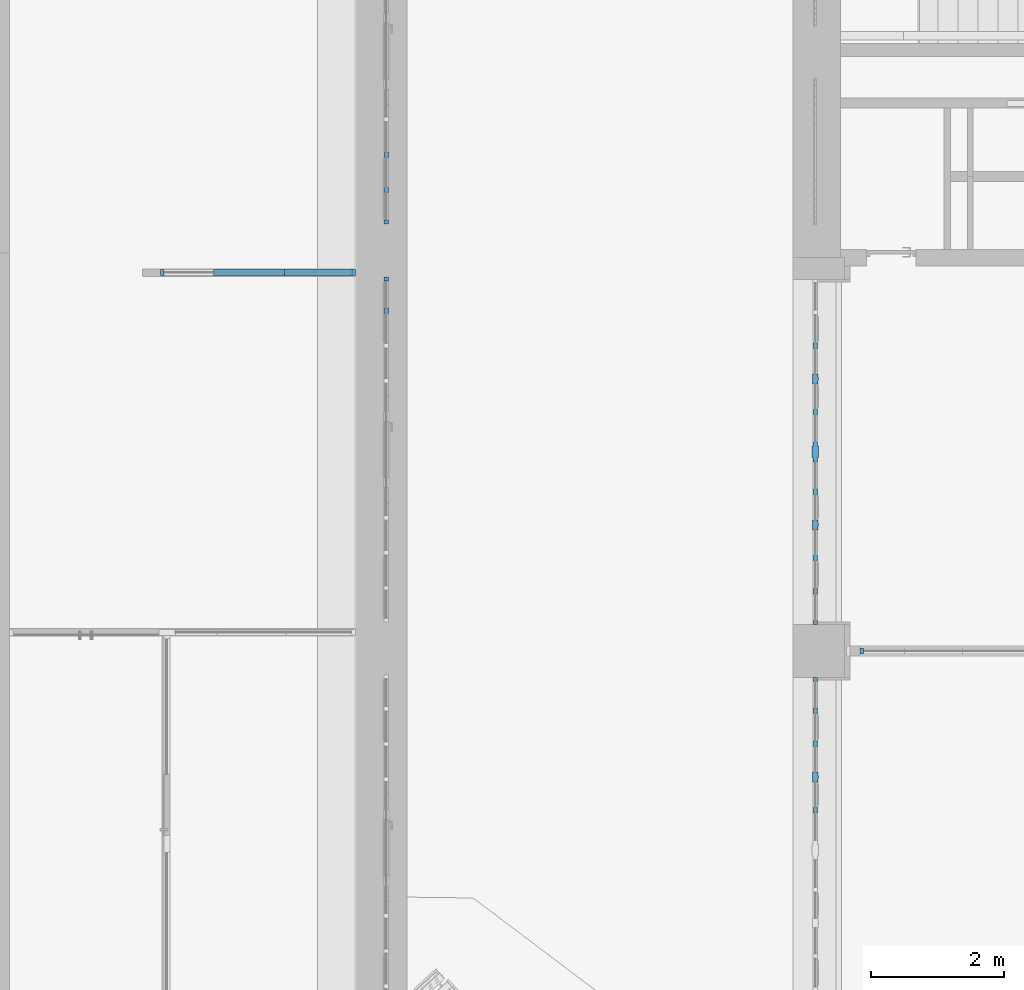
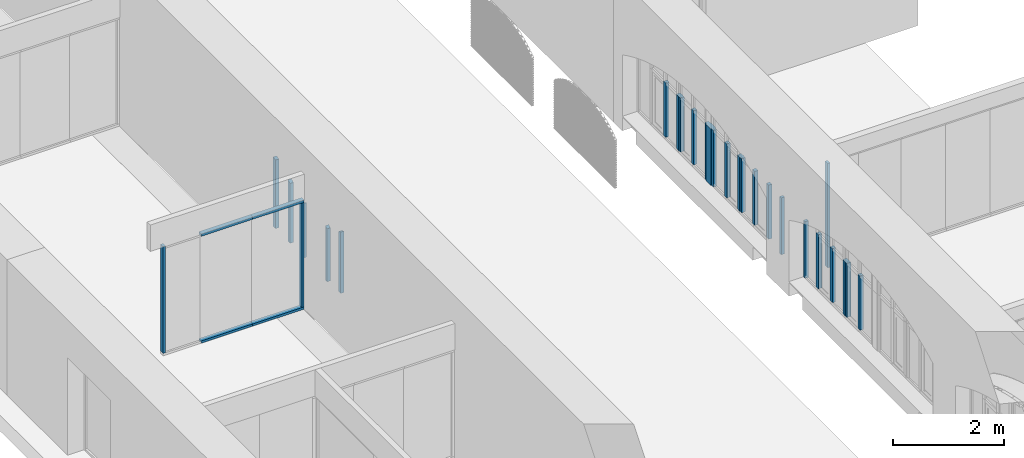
# One storey, part 7 of 88: 26 members, 6 elements without a shape of their own.
"""IFC2X3 building model written with IfcOpenShell, lengths in millimetres."""

import ifcopenshell
import ifcopenshell.guid

model = None  # the IFC model being written
_history = None  # IfcOwnerHistory: only IFC2X3 demands one
_inside = {}  # id of a spatial element -> (the spatial element, [elements in it])
_under = {}  # id of a project, library or spatial element -> (it, [spatial elements below it])
_declared = {}  # id of a project -> (the project, [libraries it declares])
_typed = {}  # id of a type object -> (the type object, [elements of that type])
_made_of = {}  # id of a material, layer set ... -> (it, [elements and type objects made of it])


def new_model(schema):
    """Start an empty IFC model of exactly this schema.

    Asked for "IFC4X3", IfcOpenShell would pick the latest addendum, in which some entities
    have other attributes; the version numbers below select the first issue.
    IFC2X3 requires an IfcOwnerHistory on every rooted entity: one is made here for all.
    """
    global model, _history
    if schema == "IFC4X3":
        model = ifcopenshell.file(schema_version=(4, 3, 0, 0))
    else:
        model = ifcopenshell.file(schema=schema)
    _inside.clear()
    _under.clear()
    _declared.clear()
    _typed.clear()
    _made_of.clear()
    _history = None
    if model.schema == "IFC2X3":
        org = make("IfcOrganization", Name="unknown")
        user = make(
            "IfcPersonAndOrganization",
            ThePerson=make("IfcPerson", FamilyName="unknown"),
            TheOrganization=org,
        )
        app = make(
            "IfcApplication",
            ApplicationDeveloper=org,
            Version="unknown",
            ApplicationFullName="unknown",
            ApplicationIdentifier="unknown",
        )
        _history = make(
            "IfcOwnerHistory",
            OwningUser=user,
            OwningApplication=app,
            ChangeAction="ADDED",
            CreationDate=0,
        )
    return model


def make(cls, **values):
    """One entity of the class cls with the attributes given. An attribute that is None is left unset."""
    return model.create_entity(
        cls, **{name: value for name, value in values.items() if value is not None}
    )


def entity(cls, *values):
    """Any entity or typed value of the class cls, its attributes in the order of the schema. None: left unset."""
    e = model.create_entity(cls)
    for i, value in enumerate(values):
        if value is not None:
            e[i] = value
    return e


def rooted(cls, **values):
    """An entity with a GlobalId (a new one), such as an element, a storey or a relation."""
    return make(cls, GlobalId=ifcopenshell.guid.new(), OwnerHistory=_history, **values)


def si_unit(unit_type, name, prefix=None):
    """IfcSIUnit, for example si_unit("LENGTHUNIT", "METRE", prefix="MILLI")."""
    return make("IfcSIUnit", UnitType=unit_type, Prefix=prefix, Name=name)


def converted_unit(unit_type, name, factor, base, dimensions=None, offset=None):
    """IfcConversionBasedUnit, such as the inch: factor (a typed value) times the base unit."""
    return make(
        "IfcConversionBasedUnit"
        if offset is None
        else "IfcConversionBasedUnitWithOffset",
        ConversionOffset=offset,
        Dimensions=None
        if dimensions is None
        else entity("IfcDimensionalExponents", *dimensions),
        UnitType=unit_type,
        Name=name,
        ConversionFactor=make(
            "IfcMeasureWithUnit", ValueComponent=factor, UnitComponent=base
        ),
    )


def derived_unit(unit_type, elements):
    """IfcDerivedUnit: a product of units, each with its exponent."""
    return make(
        "IfcDerivedUnit",
        Elements=[
            make("IfcDerivedUnitElement", Unit=unit, Exponent=power)
            for unit, power in elements
        ],
        UnitType=unit_type,
    )


def assignment(units):
    """IfcUnitAssignment: the units of a project."""
    return None if units is None else make("IfcUnitAssignment", Units=units)


def point(xyz):
    """IfcCartesianPoint."""
    return None if xyz is None else make("IfcCartesianPoint", Coordinates=xyz)


def direction(xyz):
    """IfcDirection."""
    return None if xyz is None else make("IfcDirection", DirectionRatios=xyz)


def frame(location, z_axis=None, x_axis=None):
    """IfcAxis2Placement3D, a coordinate frame: its origin and axes. An axis left out is left unset."""
    return make(
        "IfcAxis2Placement3D",
        Location=point(location),
        Axis=direction(z_axis),
        RefDirection=direction(x_axis),
    )


def frame_2d(location, x_axis=None):
    """IfcAxis2Placement2D, a coordinate frame in the plane: its origin and x axis."""
    return make(
        "IfcAxis2Placement2D", Location=point(location), RefDirection=direction(x_axis)
    )


def origin():
    """The frame at (0, 0, 0) with its axes left unset."""
    return frame((0.0, 0.0, 0.0))


def origin_2d_with_axis():
    """The frame at (0, 0) in the plane with the x axis (1, 0) written out."""
    return frame_2d((0.0, 0.0), x_axis=(1.0, 0.0))


def place(relative_to, where):
    """IfcLocalPlacement: puts the frame where relative to a parent placement (None: the world)."""
    return make(
        "IfcLocalPlacement", PlacementRelTo=relative_to, RelativePlacement=where
    )


def context(
    kind, dimensions, precision=None, world=None, true_north=None, identifier=None
):
    """IfcGeometricRepresentationContext, for example the 3D "Model" context."""
    return make(
        "IfcGeometricRepresentationContext",
        ContextIdentifier=identifier,
        ContextType=kind,
        CoordinateSpaceDimension=dimensions,
        Precision=precision,
        WorldCoordinateSystem=world,
        TrueNorth=true_north,
    )


def subcontext(parent, identifier, kind, view, scale=None):
    """IfcGeometricRepresentationSubContext, for example "Body" below "Model"."""
    return make(
        "IfcGeometricRepresentationSubContext",
        ContextIdentifier=identifier,
        ContextType=kind,
        ParentContext=parent,
        TargetScale=scale,
        TargetView=view,
    )


def project(units=None, contexts=None):
    """IfcProject with its units and contexts."""
    return rooted(
        "IfcProject",
        Name="project",
        RepresentationContexts=contexts,
        UnitsInContext=assignment(units),
    )


def spatial(cls, under=None, at=None, **own):
    """A site, building, storey or space (cls), placed at a placement, below another one or the project."""
    s = rooted(cls, ObjectPlacement=at, **own)
    if under is not None:
        _under.setdefault(under.id(), (under, []))[1].append(s)
    return s


def polyline(points):
    """IfcPolyline through the points."""
    return make("IfcPolyline", Points=[point(p) for p in points])


def circle_curve(where, radius):
    """IfcCircle in the frame where."""
    return make("IfcCircle", Position=where, Radius=radius)


def parameter(value):
    """IfcParameterValue: where a trimmed curve begins or ends, as a parameter of its basis curve."""
    return model.create_entity("IfcParameterValue", value)


def trimmed(basis, trim1, trim2, sense, master):
    """IfcTrimmedCurve: the piece of a basis curve between two trims."""
    return make(
        "IfcTrimmedCurve",
        BasisCurve=basis,
        Trim1=trim1,
        Trim2=trim2,
        SenseAgreement=sense,
        MasterRepresentation=master,
    )


def segment(curve, same_sense, transition):
    """IfcCompositeCurveSegment."""
    return make(
        "IfcCompositeCurveSegment",
        Transition=transition,
        SameSense=same_sense,
        ParentCurve=curve,
    )


def composite_curve(segments, self_intersect=None):
    """IfcCompositeCurve: segments joined end to end."""
    return make("IfcCompositeCurve", Segments=segments, SelfIntersect=self_intersect)


def profile(cls, at=None, kind="AREA", **sizes):
    """A parametric profile (cls). Its sizes go by their IFC names, for example OverallWidth=200.0."""
    return make(cls, ProfileType=kind, Position=at, **sizes)


def rectangle(**sizes):
    """IfcRectangleProfileDef."""
    return profile("IfcRectangleProfileDef", **sizes)


def outline(outer, holes=None, kind="AREA"):
    """IfcArbitraryClosedProfileDef: a profile drawn as a closed curve; with holes, ...WithVoids."""
    if holes is None:
        return make("IfcArbitraryClosedProfileDef", ProfileType=kind, OuterCurve=outer)
    return make(
        "IfcArbitraryProfileDefWithVoids",
        ProfileType=kind,
        OuterCurve=outer,
        InnerCurves=holes,
    )


def extrude(swept, where, along, depth):
    """IfcExtrudedAreaSolid: the profile swept, set in the frame where, extruded along a direction by depth."""
    return make(
        "IfcExtrudedAreaSolid",
        SweptArea=swept,
        Position=where,
        ExtrudedDirection=direction(along),
        Depth=depth,
    )


def shape(context_of_items, identifier, shape_type, items):
    """IfcShapeRepresentation: the items that make up one representation, for example the "Body"."""
    return make(
        "IfcShapeRepresentation",
        ContextOfItems=context_of_items,
        RepresentationIdentifier=identifier,
        RepresentationType=shape_type,
        Items=items,
    )


def source(mapping_origin, context_of_items, identifier, shape_type, items):
    """IfcRepresentationMap: a shape defined once, which mapped items show again and again."""
    return make(
        "IfcRepresentationMap",
        MappingOrigin=mapping_origin,
        MappedRepresentation=shape(context_of_items, identifier, shape_type, items),
    )


def transform(
    local_origin,
    x_axis=None,
    y_axis=None,
    z_axis=None,
    scale=None,
    scale2=None,
    scale3=None,
    uniform=True,
):
    """IfcCartesianTransformationOperator3D, or its non-uniform kind. x_axis, y_axis, z_axis: its Axis1, 2, 3."""
    if uniform:
        return make(
            "IfcCartesianTransformationOperator3D",
            Axis1=direction(x_axis),
            Axis2=direction(y_axis),
            LocalOrigin=point(local_origin),
            Scale=scale,
            Axis3=direction(z_axis),
        )
    return make(
        "IfcCartesianTransformationOperator3DnonUniform",
        Axis1=direction(x_axis),
        Axis2=direction(y_axis),
        LocalOrigin=point(local_origin),
        Scale=scale,
        Axis3=direction(z_axis),
        Scale2=scale2,
        Scale3=scale3,
    )


def mapped(mapping_source, mapping_target):
    """IfcMappedItem: shows the shape of a source again, moved by a transform."""
    return make(
        "IfcMappedItem", MappingSource=mapping_source, MappingTarget=mapping_target
    )


def material(Name=None, Category=None):
    """IfcMaterial."""
    return make("IfcMaterial", Name=Name, Category=Category)


def made_of(thing, what):
    """Note that an element or type object is made of a material, layer set ...; save() writes the relation."""
    if what is not None:
        _made_of.setdefault(what.id(), (what, []))[1].append(thing)
    return thing


def type_object(cls, material=None, **own):
    """A type object (cls), such as IfcWallType, which elements share."""
    return made_of(rooted(cls, **own), material)


def type_shapes(of_type, sources):
    """Give a type object the sources (RepresentationMaps) that its elements show as mapped items."""
    of_type.RepresentationMaps = sources


def element(
    cls,
    number,
    at=None,
    inside=None,
    cuts=None,
    type_object=None,
    material=None,
    context=None,
    identifier="Body",
    shape_type=None,
    held_by="IfcProductDefinitionShape",
    body=None,
    shapes=None,
    **own,
):
    """One element of the class cls, such as IfcWall. Its Tag is "e" and its number.

    at: its placement. inside: the storey or other place that contains it. cuts: it is an
    opening in that element (IfcRelVoidsElement). A single representation is given by context,
    identifier, shape_type and body (its items); several are given by shapes. held_by: the class
    of the entity that holds the representations. save() writes the other relations.
    """
    e = rooted(cls, Tag="e%d" % number, ObjectPlacement=at, **own)
    if body is not None:
        shapes = [shape(context, identifier, shape_type, body)]
    if shapes is not None:
        e.Representation = make(held_by, Representations=shapes)
    if inside is not None:
        _inside.setdefault(inside.id(), (inside, []))[1].append(e)
    if cuts is not None:
        rooted(
            "IfcRelVoidsElement", RelatingBuildingElement=cuts, RelatedOpeningElement=e
        )
    if type_object is not None:
        _typed.setdefault(type_object.id(), (type_object, []))[1].append(e)
    return made_of(e, material)


def aggregate(whole, parts):
    """IfcRelAggregates: a whole, such as a stair, and the parts it consists of."""
    return rooted("IfcRelAggregates", RelatingObject=whole, RelatedObjects=parts)


def save(model, path):
    """Write the relations noted so far, then the file.

    IfcRelAggregates (storeys below a building ...), IfcRelContainedInSpatialStructure (elements
    in a storey), IfcRelDefinesByType, IfcRelAssociatesMaterial and IfcRelDeclares: one each for
    every whole, place, type object, material and project.
    """
    for whole, parts in _under.values():
        aggregate(whole, parts)
    for where, things in _inside.values():
        rooted(
            "IfcRelContainedInSpatialStructure",
            RelatedElements=things,
            RelatingStructure=where,
        )
    for kind, things in _typed.values():
        rooted("IfcRelDefinesByType", RelatedObjects=things, RelatingType=kind)
    for what, things in _made_of.values():
        rooted("IfcRelAssociatesMaterial", RelatedObjects=things, RelatingMaterial=what)
    for by, libraries in _declared.values():
        rooted("IfcRelDeclares", RelatingContext=by, RelatedDefinitions=libraries)
    model.write(path)


model = new_model("IFC2X3")

# Units and contexts
model_context = context("Model", 3, precision=0.01, world=origin(), true_north=direction((6.123031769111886e-17, 1.0)))
body_context = subcontext(model_context, "Body", "Model", "MODEL_VIEW")
ifc_project = project(units=[si_unit("LENGTHUNIT", "METRE", prefix="MILLI"), si_unit("AREAUNIT", "SQUARE_METRE"), si_unit("VOLUMEUNIT", "CUBIC_METRE"), converted_unit("PLANEANGLEUNIT", "DEGREE", entity("IfcPlaneAngleMeasure", 0.017453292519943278), si_unit("PLANEANGLEUNIT", "RADIAN"), dimensions=[0, 0, 0, 0, 0, 0, 0]), si_unit("MASSUNIT", "GRAM", prefix="KILO"), derived_unit("MASSDENSITYUNIT", [(si_unit("MASSUNIT", "GRAM", prefix="KILO"), 1), (si_unit("LENGTHUNIT", "METRE"), -3)]), derived_unit("IONCONCENTRATIONUNIT", [(si_unit("MASSUNIT", "GRAM", prefix="KILO"), 1), (si_unit("LENGTHUNIT", "METRE"), -3)]), derived_unit("MOMENTOFINERTIAUNIT", [(si_unit("LENGTHUNIT", "METRE"), 4)]), si_unit("TIMEUNIT", "SECOND"), si_unit("FREQUENCYUNIT", "HERTZ"), si_unit("THERMODYNAMICTEMPERATUREUNIT", "DEGREE_CELSIUS"), derived_unit("THERMALTRANSMITTANCEUNIT", [(si_unit("MASSUNIT", "GRAM", prefix="KILO"), 1), (si_unit("THERMODYNAMICTEMPERATUREUNIT", "KELVIN"), -1), (si_unit("TIMEUNIT", "SECOND"), -3)]), derived_unit("THERMALCONDUCTANCEUNIT", [(si_unit("MASSUNIT", "GRAM", prefix="KILO"), 1), (si_unit("THERMODYNAMICTEMPERATUREUNIT", "KELVIN"), -1), (si_unit("TIMEUNIT", "SECOND"), -3), (si_unit("LENGTHUNIT", "METRE"), 1)]), derived_unit("VOLUMETRICFLOWRATEUNIT", [(si_unit("LENGTHUNIT", "METRE", prefix="DECI"), 3), (si_unit("TIMEUNIT", "SECOND"), -1)]), derived_unit("MASSFLOWRATEUNIT", [(si_unit("MASSUNIT", "GRAM", prefix="KILO"), 1), (si_unit("TIMEUNIT", "SECOND"), -1)]), derived_unit("ROTATIONALFREQUENCYUNIT", [(si_unit("TIMEUNIT", "SECOND"), -1)]), si_unit("ELECTRICCURRENTUNIT", "AMPERE"), si_unit("ELECTRICVOLTAGEUNIT", "VOLT"), si_unit("POWERUNIT", "WATT"), si_unit("FORCEUNIT", "NEWTON", prefix="KILO"), si_unit("ILLUMINANCEUNIT", "LUX"), si_unit("LUMINOUSFLUXUNIT", "LUMEN"), si_unit("LUMINOUSINTENSITYUNIT", "CANDELA"), si_unit("ENERGYUNIT", "JOULE"), derived_unit("USERDEFINED", [(si_unit("MASSUNIT", "GRAM", prefix="KILO"), -1), (si_unit("LENGTHUNIT", "METRE"), -2), (si_unit("TIMEUNIT", "SECOND"), 3), (si_unit("LUMINOUSFLUXUNIT", "LUMEN"), 1)]), derived_unit("USERDEFINED", [(si_unit("MASSUNIT", "GRAM", prefix="KILO"), 1), (si_unit("TIMEUNIT", "SECOND"), -3), (si_unit("LENGTHUNIT", "METRE"), 3), (si_unit("ELECTRICCURRENTUNIT", "AMPERE"), -2)]), derived_unit("SOUNDPOWERUNIT", [(si_unit("MASSUNIT", "GRAM", prefix="KILO"), 1), (si_unit("TIMEUNIT", "SECOND"), -3), (si_unit("LENGTHUNIT", "METRE"), 2)]), derived_unit("SOUNDPRESSUREUNIT", [(si_unit("MASSUNIT", "GRAM", prefix="KILO"), 1), (si_unit("LENGTHUNIT", "METRE"), -1), (si_unit("TIMEUNIT", "SECOND"), -2)]), derived_unit("LINEARVELOCITYUNIT", [(si_unit("LENGTHUNIT", "METRE"), 1), (si_unit("TIMEUNIT", "SECOND"), -1)]), si_unit("PRESSUREUNIT", "PASCAL"), derived_unit("USERDEFINED", [(si_unit("MASSUNIT", "GRAM", prefix="KILO"), 1), (si_unit("LENGTHUNIT", "METRE"), -2), (si_unit("TIMEUNIT", "SECOND"), -2)]), derived_unit("LINEARFORCEUNIT", [(si_unit("MASSUNIT", "GRAM", prefix="KILO"), 1), (si_unit("TIMEUNIT", "SECOND"), -2)]), derived_unit("PLANARFORCEUNIT", [(si_unit("MASSUNIT", "GRAM", prefix="KILO"), 1), (si_unit("LENGTHUNIT", "METRE"), -1), (si_unit("TIMEUNIT", "SECOND"), -2)]), derived_unit("SPECIFICHEATCAPACITYUNIT", [(si_unit("THERMODYNAMICTEMPERATUREUNIT", "KELVIN"), -1), (si_unit("LENGTHUNIT", "METRE"), 2), (si_unit("TIMEUNIT", "SECOND"), -2)]), derived_unit("HEATFLUXDENSITYUNIT", [(si_unit("MASSUNIT", "GRAM", prefix="KILO"), 1), (si_unit("TIMEUNIT", "SECOND"), -3)]), derived_unit("HEATINGVALUEUNIT", [(si_unit("LENGTHUNIT", "METRE"), 2), (si_unit("TIMEUNIT", "SECOND"), -2)]), derived_unit("VAPORPERMEABILITYUNIT", [(si_unit("LENGTHUNIT", "METRE"), -1), (si_unit("TIMEUNIT", "SECOND"), 1)]), derived_unit("DYNAMICVISCOSITYUNIT", [(si_unit("MASSUNIT", "GRAM", prefix="KILO"), 1), (si_unit("TIMEUNIT", "SECOND"), -1), (si_unit("LENGTHUNIT", "METRE"), -1)]), derived_unit("THERMALEXPANSIONCOEFFICIENTUNIT", [(si_unit("THERMODYNAMICTEMPERATUREUNIT", "KELVIN"), -1)]), derived_unit("MODULUSOFELASTICITYUNIT", [(si_unit("MASSUNIT", "GRAM", prefix="KILO"), 1), (si_unit("LENGTHUNIT", "METRE"), -1), (si_unit("TIMEUNIT", "SECOND"), -2)]), derived_unit("ISOTHERMALMOISTURECAPACITYUNIT", [(si_unit("MASSUNIT", "GRAM", prefix="KILO"), -1), (si_unit("LENGTHUNIT", "METRE"), 3)]), derived_unit("MOISTUREDIFFUSIVITYUNIT", [(si_unit("TIMEUNIT", "SECOND"), -1), (si_unit("LENGTHUNIT", "METRE"), 2)]), derived_unit("MASSPERLENGTHUNIT", [(si_unit("MASSUNIT", "GRAM", prefix="KILO"), 1), (si_unit("LENGTHUNIT", "METRE"), -1)]), derived_unit("THERMALRESISTANCEUNIT", [(si_unit("MASSUNIT", "GRAM", prefix="KILO"), -1), (si_unit("TIMEUNIT", "SECOND"), 3), (si_unit("THERMODYNAMICTEMPERATUREUNIT", "KELVIN"), 1)]), derived_unit("ACCELERATIONUNIT", [(si_unit("LENGTHUNIT", "METRE"), 1), (si_unit("TIMEUNIT", "SECOND"), -2)]), derived_unit("ANGULARVELOCITYUNIT", [(si_unit("TIMEUNIT", "SECOND"), -1), (si_unit("PLANEANGLEUNIT", "RADIAN"), 1)]), derived_unit("LINEARSTIFFNESSUNIT", [(si_unit("MASSUNIT", "GRAM", prefix="KILO"), 1), (si_unit("TIMEUNIT", "SECOND"), -2)]), derived_unit("WARPINGCONSTANTUNIT", [(si_unit("LENGTHUNIT", "METRE"), 6)]), derived_unit("LINEARMOMENTUNIT", [(si_unit("MASSUNIT", "GRAM", prefix="KILO"), 1), (si_unit("LENGTHUNIT", "METRE"), 1), (si_unit("TIMEUNIT", "SECOND"), -2)]), derived_unit("TORQUEUNIT", [(si_unit("MASSUNIT", "GRAM", prefix="KILO"), 1), (si_unit("LENGTHUNIT", "METRE"), 2), (si_unit("TIMEUNIT", "SECOND"), -2)])], contexts=[model_context])

# Site, building, storey
site_placement = place(None, origin())
site = spatial("IfcSite", under=ifc_project, at=site_placement, Name="Default", CompositionType="ELEMENT")
building_placement = place(site_placement, origin())
building = spatial("IfcBuilding", under=site, at=building_placement, Name="Eesti Rahvusraamatukogu hoone renoveerimise projekteerimistööd", CompositionType="ELEMENT")
storey_placement = place(building_placement, origin())
storey = spatial("IfcBuildingStorey", under=building, at=storey_placement, Name="1. korrus", CompositionType="ELEMENT", Elevation=0.0)

# Curtain wall, member
curtain_wall_type_1 = type_object("IfcCurtainWallType", Name="Curtain Wall:VLS Klaasvahesein profiilita 38db", PredefinedType="NOTDEFINED")
curtain_wall_1_placement = place(storey_placement, origin())
curtain_wall_1 = element("IfcCurtainWall", 1, at=curtain_wall_1_placement, inside=storey, type_object=curtain_wall_type_1, Name="Curtain Wall:VLS Klaasvahesein profiilita 38db", ObjectType="Curtain Wall:VLS Klaasvahesein profiilita 38db")
ifc_material_1 = material(Name="Aluminum")
member_type_1 = type_object("IfcMemberType", Name="Rectangular Mullion:50mm x 92mm", PredefinedType="MULLION", material=ifc_material_1)
shared_shape_1 = source(origin(), body_context, "Body", "SweptSolid", [
    extrude(rectangle(XDim=50.0, YDim=92.0, at=origin_2d_with_axis()), frame((-25.0, 0.0, -2300.0), z_axis=(0.0, 0.0, 1.0), x_axis=(-1.0, 0.0, 0.0)), (0.0, 0.0, 1.0), 2300.0),
])
type_shapes(member_type_1, [shared_shape_1])
member_1_placement = place(curtain_wall_1_placement, frame((-43370.0, 24092.0, 2350.0)))
member_1 = element("IfcMember", 2, at=member_1_placement, type_object=member_type_1, material=ifc_material_1, Name="Rectangular Mullion:50mm x 92mm", ObjectType="Rectangular Mullion:50mm x 92mm", context=body_context, shape_type="MappedRepresentation", body=[
    mapped(shared_shape_1, transform((0.0, 0.0, 0.0), scale=1.0)),
])

curtain_wall_2_placement = place(storey_placement, origin())
curtain_wall_2 = element("IfcCurtainWall", 3, at=curtain_wall_2_placement, inside=storey, type_object=curtain_wall_type_1, Name="Curtain Wall:VLS Klaasvahesein profiilita 38db", ObjectType="Curtain Wall:VLS Klaasvahesein profiilita 38db")
member_2_placement = place(curtain_wall_2_placement, frame((-35765.499999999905, 18390.0, 4000.0), z_axis=(0.0, 0.0, 1.0), x_axis=(-1.0, 0.0, 0.0)))
member_2 = element("IfcMember", 4, at=member_2_placement, type_object=member_type_1, material=ifc_material_1, Name="Rectangular Mullion:50mm x 92mm", ObjectType="Rectangular Mullion:50mm x 92mm", context=body_context, shape_type="MappedRepresentation", body=[
    mapped(shared_shape_1, transform((0.0, 0.0, 0.0), scale=1.0)),
])
aggregate(curtain_wall_2, [member_2])

# Member
member_type_2 = type_object("IfcMemberType", Name="Rectangular Mullion:50mm x 92mm", PredefinedType="MULLION", material=ifc_material_1)
shared_shape_2 = source(origin(), body_context, "Body", "SweptSolid", [
    extrude(rectangle(XDim=50.0, YDim=92.0, at=frame_2d((0.0, 3.552713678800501e-15), x_axis=(1.0, 0.0))), frame((-25.0, 0.0, -1070.0000001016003), z_axis=(0.0, 0.0, 1.0), x_axis=(-1.0, 0.0, 0.0)), (0.0, 0.0, 1.0), 1070.0000001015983),
])
type_shapes(member_type_2, [shared_shape_2])
member_3_placement = place(curtain_wall_1_placement, frame((-43370.0, 24092.0, 0.0), z_axis=(1.0, 0.0, 0.0), x_axis=(0.0, 0.0, -1.0)))
member_3 = element("IfcMember", 5, at=member_3_placement, type_object=member_type_2, material=ifc_material_1, Name="Rectangular Mullion:50mm x 92mm", ObjectType="Rectangular Mullion:50mm x 92mm", context=body_context, shape_type="MappedRepresentation", body=[
    mapped(shared_shape_2, transform((0.0, 0.0, 0.0), scale=1.0)),
])

member_type_3 = type_object("IfcMemberType", Name="Rectangular Mullion:50mm x 92mm", PredefinedType="MULLION", material=ifc_material_1)
shared_shape_3 = source(origin(), body_context, "Body", "SweptSolid", [
    extrude(rectangle(XDim=50.0, YDim=92.0, at=origin_2d_with_axis()), frame((-25.0, 0.0, -2350.0), z_axis=(0.0, 0.0, 1.0), x_axis=(-1.0, 0.0, 0.0)), (0.0, 0.0, 1.0), 2350.0),
])
type_shapes(member_type_3, [shared_shape_3])
member_4_placement = place(curtain_wall_1_placement, frame((-46305.0, 24092.0, 50.0), z_axis=(0.0, 0.0, -1.0), x_axis=(-1.0, 0.0, 0.0)))
member_4 = element("IfcMember", 6, at=member_4_placement, type_object=member_type_3, material=ifc_material_1, Name="Rectangular Mullion:50mm x 92mm", ObjectType="Rectangular Mullion:50mm x 92mm", context=body_context, shape_type="MappedRepresentation", body=[
    mapped(shared_shape_3, transform((0.0, 0.0, 0.0), scale=1.0)),
])

member_type_4 = type_object("IfcMemberType", Name="Rectangular Mullion:50mm x 92mm", PredefinedType="MULLION", material=ifc_material_1)
shared_shape_4 = source(origin(), body_context, "Body", "SweptSolid", [
    extrude(rectangle(XDim=50.0, YDim=92.0, at=frame_2d((0.0, 3.552713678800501e-15), x_axis=(1.0, 0.0))), frame((-25.0, 0.0, -1070.000000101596), z_axis=(0.0, 0.0, 1.0), x_axis=(-1.0, 0.0, 0.0)), (0.0, 0.0, 1.0), 1070.0000001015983),
])
type_shapes(member_type_4, [shared_shape_4])
member_5_placement = place(curtain_wall_1_placement, frame((-44440.00000010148, 24092.0, 2400.0), z_axis=(-1.0, 0.0, 0.0), x_axis=(0.0, 0.0, 1.0)))
member_5 = element("IfcMember", 7, at=member_5_placement, type_object=member_type_4, material=ifc_material_1, Name="Rectangular Mullion:50mm x 92mm", ObjectType="Rectangular Mullion:50mm x 92mm", context=body_context, shape_type="MappedRepresentation", body=[
    mapped(shared_shape_4, transform((0.0, 0.0, 0.0), scale=1.0)),
])

member_type_5 = type_object("IfcMemberType", Name="Rectangular Mullion:50mm x 92mm", PredefinedType="MULLION", material=ifc_material_1)
shared_shape_5 = source(origin(), body_context, "Body", "SweptSolid", [
    extrude(rectangle(XDim=50.0, YDim=92.0, at=frame_2d((0.0, 3.552713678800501e-15), x_axis=(1.0, 0.0))), frame((-25.0, 0.0, -1069.99999979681), z_axis=(0.0, 0.0, 1.0), x_axis=(-1.0, 0.0, 0.0)), (0.0, 0.0, 1.0), 1069.99999979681),
])
type_shapes(member_type_5, [shared_shape_5])
member_6_placement = place(curtain_wall_1_placement, frame((-45509.99999989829, 24092.0, 2400.0), z_axis=(-1.0, 0.0, 0.0), x_axis=(0.0, 0.0, 1.0)))
member_6 = element("IfcMember", 8, at=member_6_placement, type_object=member_type_5, material=ifc_material_1, Name="Rectangular Mullion:50mm x 92mm", ObjectType="Rectangular Mullion:50mm x 92mm", context=body_context, shape_type="MappedRepresentation", body=[
    mapped(shared_shape_5, transform((0.0, 0.0, 0.0), scale=1.0)),
])

member_type_6 = type_object("IfcMemberType", Name="Rectangular Mullion:50mm x 92mm", PredefinedType="MULLION", material=ifc_material_1)
shared_shape_6 = source(origin(), body_context, "Body", "SweptSolid", [
    extrude(rectangle(XDim=50.0, YDim=92.0, at=frame_2d((0.0, 3.552713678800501e-15), x_axis=(1.0, 0.0))), frame((-25.0, 0.0, -1069.99999979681), z_axis=(0.0, 0.0, 1.0), x_axis=(-1.0, 0.0, 0.0)), (0.0, 0.0, 1.0), 1069.99999979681),
])
type_shapes(member_type_6, [shared_shape_6])
member_7_placement = place(curtain_wall_1_placement, frame((-44440.00000010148, 24092.0, 0.0), z_axis=(1.0, 0.0, 0.0), x_axis=(0.0, 0.0, -1.0)))
member_7 = element("IfcMember", 9, at=member_7_placement, type_object=member_type_6, material=ifc_material_1, Name="Rectangular Mullion:50mm x 92mm", ObjectType="Rectangular Mullion:50mm x 92mm", context=body_context, shape_type="MappedRepresentation", body=[
    mapped(shared_shape_6, transform((0.0, 0.0, 0.0), scale=1.0)),
])

aggregate(curtain_wall_1, [member_3, member_4, member_1, member_5, member_6, member_7])

# Curtain wall, members
curtain_wall_type_2 = type_object("IfcCurtainWallType", Name="Curtain Wall:Ak-02", PredefinedType="NOTDEFINED")
curtain_wall_3_placement = place(storey_placement, origin())
curtain_wall_3 = element("IfcCurtainWall", 10, at=curtain_wall_3_placement, inside=storey, type_object=curtain_wall_type_2, Name="Curtain Wall:Ak-02", ObjectType="Curtain Wall:Ak-02")
ifc_material_2 = material(Name="LUMION_dark steel window frames")
member_type_7 = type_object("IfcMemberType", Name="Rectangular Mullion:NEW 80x70mm", PredefinedType="MULLION", material=ifc_material_2)
shared_shape_7 = source(origin(), body_context, "Body", "SweptSolid", [
    extrude(rectangle(XDim=80.0, YDim=70.0, at=frame_2d((0.0, 3.552713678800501e-15), x_axis=(1.0, 0.0))), frame((0.0, 0.0, -1190.0), z_axis=(0.0, 0.0, 1.0), x_axis=(-1.0, 0.0, 0.0)), (0.0, 0.0, 1.0), 1189.9999999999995),
])
type_shapes(member_type_7, [shared_shape_7])
member_8_placement = place(curtain_wall_3_placement, frame((-36440.0, 22990.0, 2030.0), z_axis=(0.0, 0.0, -1.0), x_axis=(0.0, -1.0, 0.0)))
member_8 = element("IfcMember", 11, at=member_8_placement, type_object=member_type_7, material=ifc_material_2, Name="Rectangular Mullion:NEW 80x70mm", ObjectType="Rectangular Mullion:NEW 80x70mm", context=body_context, shape_type="MappedRepresentation", body=[
    mapped(shared_shape_7, transform((0.0, 0.0, 0.0), scale=1.0)),
])
member_9_placement = place(curtain_wall_3_placement, frame((-36440.0, 21990.0, 2030.0), z_axis=(0.0, 0.0, -1.0), x_axis=(0.0, -1.0, 0.0)))
member_9 = element("IfcMember", 12, at=member_9_placement, type_object=member_type_7, material=ifc_material_2, Name="Rectangular Mullion:NEW 80x70mm", ObjectType="Rectangular Mullion:NEW 80x70mm", context=body_context, shape_type="MappedRepresentation", body=[
    mapped(shared_shape_7, transform((0.0, 0.0, 0.0), scale=1.0)),
])
member_10_placement = place(curtain_wall_3_placement, frame((-36440.0, 20790.0, 2030.0), z_axis=(0.0, 0.0, -1.0), x_axis=(0.0, -1.0, 0.0)))
member_10 = element("IfcMember", 13, at=member_10_placement, type_object=member_type_7, material=ifc_material_2, Name="Rectangular Mullion:NEW 80x70mm", ObjectType="Rectangular Mullion:NEW 80x70mm", context=body_context, shape_type="MappedRepresentation", body=[
    mapped(shared_shape_7, transform((0.0, 0.0, 0.0), scale=1.0)),
])
member_11_placement = place(curtain_wall_3_placement, frame((-36440.0, 19790.0, 2030.0), z_axis=(0.0, 0.0, -1.0), x_axis=(0.0, -1.0, 0.0)))
member_11 = element("IfcMember", 14, at=member_11_placement, type_object=member_type_7, material=ifc_material_2, Name="Rectangular Mullion:NEW 80x70mm", ObjectType="Rectangular Mullion:NEW 80x70mm", context=body_context, shape_type="MappedRepresentation", body=[
    mapped(shared_shape_7, transform((0.0, 0.0, 0.0), scale=1.0)),
])
member_12_placement = place(curtain_wall_3_placement, frame((-36440.0, 19290.0, 2030.0), z_axis=(0.0, 0.0, -1.0), x_axis=(0.0, -1.0, 0.0)))
member_12 = element("IfcMember", 15, at=member_12_placement, type_object=member_type_7, material=ifc_material_2, Name="Rectangular Mullion:NEW 80x70mm", ObjectType="Rectangular Mullion:NEW 80x70mm", context=body_context, shape_type="MappedRepresentation", body=[
    mapped(shared_shape_7, transform((0.0, 0.0, 0.0), scale=1.0)),
])

curtain_wall_4_placement = place(storey_placement, origin())
curtain_wall_4 = element("IfcCurtainWall", 16, at=curtain_wall_4_placement, inside=storey, type_object=curtain_wall_type_2, Name="Curtain Wall:Ak-02", ObjectType="Curtain Wall:Ak-02")
member_13_placement = place(curtain_wall_4_placement, frame((-36440.0, 17490.0, 2030.0), z_axis=(0.0, 0.0, -1.0), x_axis=(0.0, -1.0, 0.0)))
member_13 = element("IfcMember", 17, at=member_13_placement, type_object=member_type_7, material=ifc_material_2, Name="Rectangular Mullion:NEW 80x70mm", ObjectType="Rectangular Mullion:NEW 80x70mm", context=body_context, shape_type="MappedRepresentation", body=[
    mapped(shared_shape_7, transform((0.0, 0.0, 0.0), scale=1.0)),
])
member_14_placement = place(curtain_wall_4_placement, frame((-36440.0, 16990.0, 2030.0), z_axis=(0.0, 0.0, -1.0), x_axis=(0.0, -1.0, 0.0)))
member_14 = element("IfcMember", 18, at=member_14_placement, type_object=member_type_7, material=ifc_material_2, Name="Rectangular Mullion:NEW 80x70mm", ObjectType="Rectangular Mullion:NEW 80x70mm", context=body_context, shape_type="MappedRepresentation", body=[
    mapped(shared_shape_7, transform((0.0, 0.0, 0.0), scale=1.0)),
])
member_15_placement = place(curtain_wall_4_placement, frame((-36440.0, 15990.0, 2030.0), z_axis=(0.0, 0.0, -1.0), x_axis=(0.0, -1.0, 0.0)))
member_15 = element("IfcMember", 19, at=member_15_placement, type_object=member_type_7, material=ifc_material_2, Name="Rectangular Mullion:NEW 80x70mm", ObjectType="Rectangular Mullion:NEW 80x70mm", context=body_context, shape_type="MappedRepresentation", body=[
    mapped(shared_shape_7, transform((0.0, 0.0, 0.0), scale=1.0)),
])

# Member
member_type_8 = type_object("IfcMemberType", Name="Rectangular Mullion:NEW 150x90mm", PredefinedType="MULLION", material=ifc_material_2)
shared_shape_8 = source(origin(), body_context, "Body", "SweptSolid", [
    extrude(outline(polyline([(20.0, -40.0), (75.0, -40.0), (75.0, 40.0), (20.0, 40.0), (20.0, 45.0), (-20.0, 45.0), (-20.0, 40.0), (-75.0, 40.0), (-75.0, -40.0), (-20.0, -40.0), (-20.0, -45.0), (20.0, -45.0), (20.0, -40.0)])), frame((0.0, 0.0, -1190.0), z_axis=(0.0, 0.0, 1.0), x_axis=(-1.0, 0.0, 0.0)), (0.0, 0.0, 1.0), 1189.9999999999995),
])
type_shapes(member_type_8, [shared_shape_8])
member_16_placement = place(curtain_wall_3_placement, frame((-36440.0, 22490.0, 2030.0), z_axis=(0.0, 0.0, -1.0), x_axis=(0.0, -1.0, 0.0)))
member_16 = element("IfcMember", 20, at=member_16_placement, type_object=member_type_8, material=ifc_material_2, Name="Rectangular Mullion:NEW 150x90mm", ObjectType="Rectangular Mullion:NEW 150x90mm", context=body_context, shape_type="MappedRepresentation", body=[
    mapped(shared_shape_8, transform((0.0, 0.0, 0.0), scale=1.0)),
])

member_17_placement = place(curtain_wall_3_placement, frame((-36440.0, 20290.0, 2030.0), z_axis=(0.0, 0.0, -1.0), x_axis=(0.0, -1.0, 0.0)))
member_17 = element("IfcMember", 21, at=member_17_placement, type_object=member_type_8, material=ifc_material_2, Name="Rectangular Mullion:NEW 150x90mm", ObjectType="Rectangular Mullion:NEW 150x90mm", context=body_context, shape_type="MappedRepresentation", body=[
    mapped(shared_shape_8, transform((0.0, 0.0, 0.0), scale=1.0)),
])

member_18_placement = place(curtain_wall_4_placement, frame((-36440.0, 16490.0, 2030.0), z_axis=(0.0, 0.0, -1.0), x_axis=(0.0, -1.0, 0.0)))
member_18 = element("IfcMember", 22, at=member_18_placement, type_object=member_type_8, material=ifc_material_2, Name="Rectangular Mullion:NEW 150x90mm", ObjectType="Rectangular Mullion:NEW 150x90mm", context=body_context, shape_type="MappedRepresentation", body=[
    mapped(shared_shape_8, transform((0.0, 0.0, 0.0), scale=1.0)),
])

member_type_9 = type_object("IfcMemberType", Name="Rectangular Mullion:NEW 300x100mm", PredefinedType="MULLION", material=ifc_material_2)
shared_shape_9 = source(origin(), body_context, "Body", "SweptSolid", [
    extrude(outline(polyline([(85.0, -35.0), (150.0, -35.0), (150.0, 35.0), (85.0, 35.0), (85.0, 50.0), (-85.0, 50.0), (-85.0, 35.0), (-150.0, 35.0), (-150.0, -35.0), (-85.0, -35.0), (-85.0, -50.0), (85.0, -50.0), (85.0, -35.0)])), frame((0.0, 0.0, -1250.0), z_axis=(0.0, 0.0, 1.0), x_axis=(-1.0, 0.0, 0.0)), (0.0, 0.0, 1.0), 1249.9999999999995),
])
type_shapes(member_type_9, [shared_shape_9])
member_19_placement = place(curtain_wall_3_placement, frame((-36440.0, 21390.0, 1970.0), z_axis=(0.0, 0.0, -1.0), x_axis=(0.0, -1.0, 0.0)))
member_19 = element("IfcMember", 23, at=member_19_placement, type_object=member_type_9, material=ifc_material_2, Name="Rectangular Mullion:NEW 300x100mm", ObjectType="Rectangular Mullion:NEW 300x100mm", context=body_context, shape_type="MappedRepresentation", body=[
    mapped(shared_shape_9, transform((0.0, 0.0, 0.0), scale=1.0)),
])

member_type_10 = type_object("IfcMemberType", Name="Rectangular Mullion:NEW 60x70mm", PredefinedType="MULLION", material=ifc_material_2)
shared_shape_10 = source(origin(), body_context, "Body", "SweptSolid", [
    extrude(rectangle(XDim=60.0, YDim=70.0, at=frame_2d((0.0, 3.552713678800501e-15), x_axis=(1.0, 0.0))), frame((-30.0, 0.0, -1250.0), z_axis=(0.0, 0.0, 1.0), x_axis=(-1.0, 0.0, 0.0)), (0.0, 0.0, 1.0), 1249.9999999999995),
])
type_shapes(member_type_10, [shared_shape_10])
member_20_placement = place(curtain_wall_3_placement, frame((-36440.0, 18790.0, 1970.0), z_axis=(0.0, 0.0, -1.0), x_axis=(0.0, -1.0, 0.0)))
member_20 = element("IfcMember", 24, at=member_20_placement, type_object=member_type_10, material=ifc_material_2, Name="Rectangular Mullion:NEW 60x70mm", ObjectType="Rectangular Mullion:NEW 60x70mm", context=body_context, shape_type="MappedRepresentation", body=[
    mapped(shared_shape_10, transform((0.0, 0.0, 0.0), scale=1.0)),
])

aggregate(curtain_wall_3, [member_8, member_16, member_9, member_19, member_10, member_17, member_11, member_12, member_20])

member_type_11 = type_object("IfcMemberType", Name="Rectangular Mullion:NEW 60x70mm", PredefinedType="MULLION", material=ifc_material_2)
shared_shape_11 = source(origin(), body_context, "Body", "SweptSolid", [
    extrude(rectangle(XDim=60.0, YDim=70.0, at=frame_2d((0.0, 3.552713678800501e-15), x_axis=(1.0, 0.0))), frame((-30.0, 0.0, -1250.0), z_axis=(0.0, 0.0, 1.0), x_axis=(-1.0, 0.0, 0.0)), (0.0, 0.0, 1.0), 1249.9999999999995),
])
type_shapes(member_type_11, [shared_shape_11])
member_21_placement = place(curtain_wall_4_placement, frame((-36440.0, 17990.0, 3220.0), z_axis=(0.0, 0.0, 1.0), x_axis=(0.0, 1.0, 0.0)))
member_21 = element("IfcMember", 25, at=member_21_placement, type_object=member_type_11, material=ifc_material_2, Name="Rectangular Mullion:NEW 60x70mm", ObjectType="Rectangular Mullion:NEW 60x70mm", context=body_context, shape_type="MappedRepresentation", body=[
    mapped(shared_shape_11, transform((0.0, 0.0, 0.0), scale=1.0)),
])

aggregate(curtain_wall_4, [member_13, member_14, member_18, member_15, member_21])

# Curtain wall, member
curtain_wall_type_3 = type_object("IfcCurtainWallType", Name="Curtain Wall:Ak-05", PredefinedType="NOTDEFINED")
curtain_wall_5_placement = place(storey_placement, origin())
curtain_wall_5 = element("IfcCurtainWall", 26, at=curtain_wall_5_placement, inside=storey, type_object=curtain_wall_type_3, Name="Curtain Wall:Ak-05", ObjectType="Curtain Wall:Ak-05")
member_type_12 = type_object("IfcMemberType", Name="Rectangular Mullion:NEW 60x70mm", PredefinedType="MULLION", material=ifc_material_2)
shared_shape_12 = source(origin(), body_context, "Body", "SweptSolid", [
    extrude(outline(polyline([(-590.8870214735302, -30.0), (608.8836344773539, -30.0), (572.8904084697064, 30.0), (-590.8870214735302, 30.0), (-590.8870214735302, -30.0)])), frame((-30.0, -35.0, -590.8870214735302), z_axis=(0.0, 1.0, 0.0), x_axis=(0.0, 0.0, -1.0)), (0.0, 0.0, 1.0), 70.00000000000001),
])
type_shapes(member_type_12, [shared_shape_12])
member_22_placement = place(curtain_wall_5_placement, frame((-42905.0, 24825.0, 500.0), z_axis=(0.0, 0.0, -1.0), x_axis=(0.0, -1.0, 0.0)))
member_22 = element("IfcMember", 27, at=member_22_placement, type_object=member_type_12, material=ifc_material_2, Name="Rectangular Mullion:NEW 60x70mm", ObjectType="Rectangular Mullion:NEW 60x70mm", context=body_context, shape_type="MappedRepresentation", body=[
    mapped(shared_shape_12, transform((0.0, 0.0, 0.0), scale=1.0)),
])

curtain_wall_6_placement = place(storey_placement, origin())
curtain_wall_6 = element("IfcCurtainWall", 28, at=curtain_wall_6_placement, inside=storey, type_object=curtain_wall_type_3, Name="Curtain Wall:Ak-05", ObjectType="Curtain Wall:Ak-05")
member_type_13 = type_object("IfcMemberType", Name="Rectangular Mullion:NEW 60x70mm", PredefinedType="MULLION", material=ifc_material_2)
shared_shape_13 = source(origin(), body_context, "Body", "SweptSolid", [
    extrude(outline(polyline([(-608.8836344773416, -30.0), (590.8870214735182, -30.0), (590.8870214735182, 30.0), (-572.8904084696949, 30.0), (-608.8836344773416, -30.0)])), frame((-30.0, -35.0, -608.8836344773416), z_axis=(0.0, 1.0, 0.0), x_axis=(0.0, 0.0, -1.0)), (0.0, 0.0, 1.0), 70.00000000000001),
])
type_shapes(member_type_13, [shared_shape_13])
member_23_placement = place(curtain_wall_6_placement, frame((-42905.0, 24025.0, 1699.7706559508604), z_axis=(0.0, 0.0, 1.0), x_axis=(0.0, 1.0, 0.0)))
member_23 = element("IfcMember", 29, at=member_23_placement, type_object=member_type_13, material=ifc_material_2, Name="Rectangular Mullion:NEW 60x70mm", ObjectType="Rectangular Mullion:NEW 60x70mm", context=body_context, shape_type="MappedRepresentation", body=[
    mapped(shared_shape_13, transform((0.0, 0.0, 0.0), scale=1.0)),
])

# Member
member_type_14 = type_object("IfcMemberType", Name="Rectangular Mullion:NEW 80x70mm", PredefinedType="MULLION", material=ifc_material_2)
shared_shape_14 = source(origin(), body_context, "Body", "SweptSolid", [
    extrude(outline(composite_curve([segment(polyline([(-802.4490834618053, -44.54077965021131), (515.2279674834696, -44.54077965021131)]), True, "CONTINUOUS"), segment(trimmed(circle_curve(frame_2d((-4515.729650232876, 2085.4592203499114), x_axis=(0.8822747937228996, -0.4707347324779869)), 5463.280566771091), [parameter(5.135238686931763)], [parameter(5.847495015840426)], True, "PARAMETER"), True, "CONTINUOUS"), segment(trimmed(circle_curve(frame_2d((-4515.729650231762, 2085.4592203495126), x_axis=(0.9256428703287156, -0.3783983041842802)), 5463.280566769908), [parameter(0.0)], [parameter(0.1958264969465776)], True, "PARAMETER"), True, "CONTINUOUS"), segment(polyline([(548.3531444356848, 35.45922034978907), (-802.4490834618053, 35.45922034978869)]), True, "CONTINUOUS"), segment(polyline([(-802.4490834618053, 35.45922034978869), (-802.4490834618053, -44.54077965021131)]), True, "CONTINUOUS")], self_intersect=False)), frame((-4.540779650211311, -35.0, -802.4490834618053), z_axis=(0.0, 1.0, 0.0), x_axis=(0.0, 0.0, -1.0)), (0.0, 0.0, 1.0), 69.99999999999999),
])
type_shapes(member_type_14, [shared_shape_14])
member_24_placement = place(curtain_wall_5_placement, frame((-42905.0, 25335.0, 540.0), z_axis=(0.0, 0.0, -1.0), x_axis=(0.0, -1.0, 0.0)))
member_24 = element("IfcMember", 30, at=member_24_placement, type_object=member_type_14, material=ifc_material_2, Name="Rectangular Mullion:NEW 80x70mm", ObjectType="Rectangular Mullion:NEW 80x70mm", context=body_context, shape_type="MappedRepresentation", body=[
    mapped(shared_shape_14, transform((0.0, 0.0, 0.0), scale=1.0)),
])

member_type_15 = type_object("IfcMemberType", Name="Rectangular Mullion:NEW 80x70mm", PredefinedType="MULLION", material=ifc_material_2)
shared_shape_15 = source(origin(), body_context, "Body", "SweptSolid", [
    extrude(outline(composite_curve([segment(polyline([(-914.4623251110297, -43.389290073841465), (595.9947117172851, -43.389290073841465)]), True, "CONTINUOUS"), segment(trimmed(circle_curve(frame_2d((-4627.7428918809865, 1556.6107099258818), x_axis=(0.9256428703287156, -0.37839830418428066)), 5463.280566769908), [parameter(5.204987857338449)], [parameter(5.828569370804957)], True, "PARAMETER"), True, "CONTINUOUS"), segment(trimmed(circle_curve(frame_2d((-4627.74289188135, 1556.6107099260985), x_axis=(0.9592847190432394, -0.28244083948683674)), 5463.280566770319), [parameter(0.0)], [parameter(0.25187197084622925)], True, "PARAMETER"), True, "CONTINUOUS"), segment(polyline([(619.8312668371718, 36.61070992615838), (-914.4623251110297, 36.610709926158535)]), True, "CONTINUOUS"), segment(polyline([(-914.4623251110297, 36.610709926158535), (-914.4623251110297, -43.389290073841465)]), True, "CONTINUOUS")], self_intersect=False)), frame((-3.389290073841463, -35.0, -914.4623251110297), z_axis=(0.0, 1.0, 0.0), x_axis=(0.0, 0.0, -1.0)), (0.0, 0.0, 1.0), 69.99999999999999),
])
type_shapes(member_type_15, [shared_shape_15])
member_25_placement = place(curtain_wall_5_placement, frame((-42905.0, 25865.0, 540.0), z_axis=(0.0, 0.0, -1.0), x_axis=(0.0, -1.0, 0.0)))
member_25 = element("IfcMember", 31, at=member_25_placement, type_object=member_type_15, material=ifc_material_2, Name="Rectangular Mullion:NEW 80x70mm", ObjectType="Rectangular Mullion:NEW 80x70mm", context=body_context, shape_type="MappedRepresentation", body=[
    mapped(shared_shape_15, transform((0.0, 0.0, 0.0), scale=1.0)),
])

aggregate(curtain_wall_5, [member_22, member_24, member_25])

member_type_16 = type_object("IfcMemberType", Name="Rectangular Mullion:NEW 80x70mm", PredefinedType="MULLION", material=ifc_material_2)
shared_shape_16 = source(origin(), body_context, "Body", "SweptSolid", [
    extrude(outline(composite_curve([segment(polyline([(-802.4490834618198, -35.45922034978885), (548.3531444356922, -35.45922034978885)]), True, "CONTINUOUS"), segment(trimmed(circle_curve(frame_2d((-4515.72965023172, -2085.459220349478), x_axis=(0.9592847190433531, 0.28244083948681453)), 5463.280566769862), [parameter(5.63274287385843)], [parameter(5.828569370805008)], True, "PARAMETER"), True, "CONTINUOUS"), segment(trimmed(circle_curve(frame_2d((-4515.729650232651, -2085.4592203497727), x_axis=(0.9256428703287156, 0.37839830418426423)), 5463.280566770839), [parameter(0.0)], [parameter(0.7122563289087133)], True, "PARAMETER"), True, "CONTINUOUS"), segment(polyline([(515.2279674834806, 44.54077965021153), (-802.4490834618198, 44.54077965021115)]), True, "CONTINUOUS"), segment(polyline([(-802.4490834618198, 44.54077965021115), (-802.4490834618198, -35.45922034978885)]), True, "CONTINUOUS")], self_intersect=False)), frame((4.540779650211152, -35.0, -802.4490834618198), z_axis=(0.0, 1.0, 0.0), x_axis=(0.0, 0.0, -1.0)), (0.0, 0.0, 1.0), 70.00000000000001),
])
type_shapes(member_type_16, [shared_shape_16])
member_26_placement = place(curtain_wall_6_placement, frame((-42905.0, 23515.0, 540.0), z_axis=(0.0, 0.0, -1.0), x_axis=(0.0, -1.0, 0.0)))
member_26 = element("IfcMember", 32, at=member_26_placement, type_object=member_type_16, material=ifc_material_2, Name="Rectangular Mullion:NEW 80x70mm", ObjectType="Rectangular Mullion:NEW 80x70mm", context=body_context, shape_type="MappedRepresentation", body=[
    mapped(shared_shape_16, transform((0.0, 0.0, 0.0), scale=1.0)),
])

aggregate(curtain_wall_6, [member_23, member_26])

save(model, "model.ifc")
